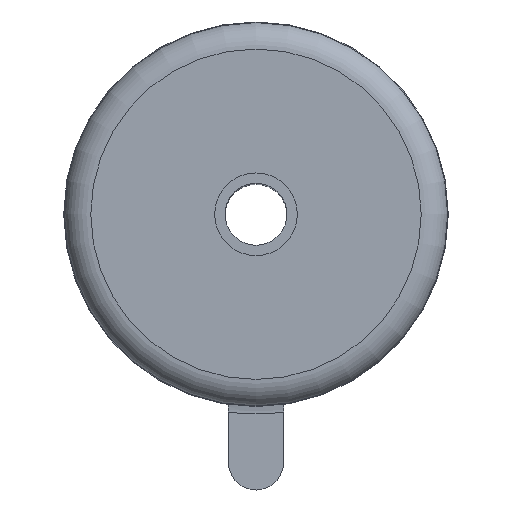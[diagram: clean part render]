
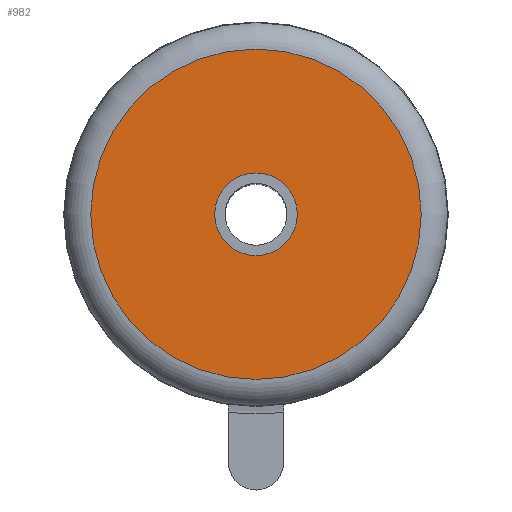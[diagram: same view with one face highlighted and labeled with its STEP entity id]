
A CAD part, top view. The second image highlights one B-rep face of the part: STEP entity #982.
In plain terms, the highlighted planar face has unit normal (0, 0, 1).
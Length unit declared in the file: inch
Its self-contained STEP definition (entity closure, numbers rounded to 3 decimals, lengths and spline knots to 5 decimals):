
#29=FACE_BOUND('',#145,.T.);
#35=PLANE('',#1084);
#84=FACE_OUTER_BOUND('',#144,.T.);
#144=EDGE_LOOP('',(#836,#837));
#145=EDGE_LOOP('',(#838));
#166=CIRCLE('',#1046,0.15);
#186=CIRCLE('',#1075,0.6);
#187=CIRCLE('',#1076,0.6);
#411=VERTEX_POINT('',#4442);
#426=VERTEX_POINT('',#4488);
#427=VERTEX_POINT('',#4490);
#540=EDGE_CURVE('',#411,#411,#166,.T.);
#563=EDGE_CURVE('',#426,#427,#186,.T.);
#564=EDGE_CURVE('',#427,#426,#187,.T.);
#836=ORIENTED_EDGE('',*,*,#564,.F.);
#837=ORIENTED_EDGE('',*,*,#563,.F.);
#838=ORIENTED_EDGE('',*,*,#540,.T.);
#982=ADVANCED_FACE('',(#84,#29),#35,.T.);
#1046=AXIS2_PLACEMENT_3D('',#4443,#1208,#1209);
#1075=AXIS2_PLACEMENT_3D('',#4491,#1269,#1270);
#1076=AXIS2_PLACEMENT_3D('',#4492,#1271,#1272);
#1084=AXIS2_PLACEMENT_3D('',#4514,#1292,#1293);
#1208=DIRECTION('center_axis',(0.,0.,-1.));
#1209=DIRECTION('ref_axis',(1.,0.,0.));
#1269=DIRECTION('center_axis',(0.,0.,-1.));
#1270=DIRECTION('ref_axis',(-1.,0.,0.));
#1271=DIRECTION('center_axis',(0.,0.,-1.));
#1272=DIRECTION('ref_axis',(-1.,0.,0.));
#1292=DIRECTION('center_axis',(0.,0.,1.));
#1293=DIRECTION('ref_axis',(1.,0.,0.));
#4442=CARTESIAN_POINT('',(-0.15,0.,2.5));
#4443=CARTESIAN_POINT('Origin',(0.,0.,2.5));
#4488=CARTESIAN_POINT('',(0.6,0.,2.5));
#4490=CARTESIAN_POINT('',(-0.6,0.,2.5));
#4491=CARTESIAN_POINT('Origin',(0.,0.,2.5));
#4492=CARTESIAN_POINT('Origin',(0.,0.,2.5));
#4514=CARTESIAN_POINT('Origin',(0.,0.,2.5));
